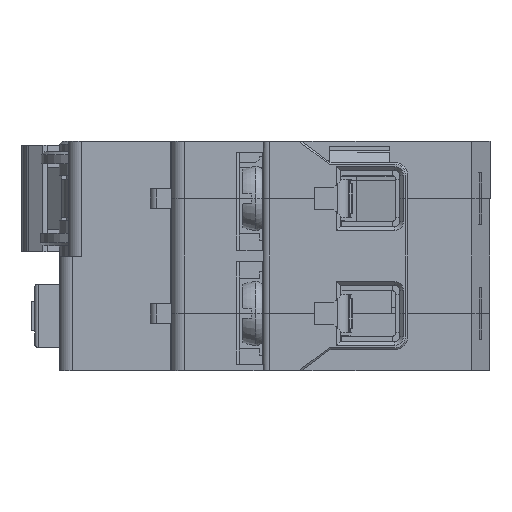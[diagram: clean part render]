
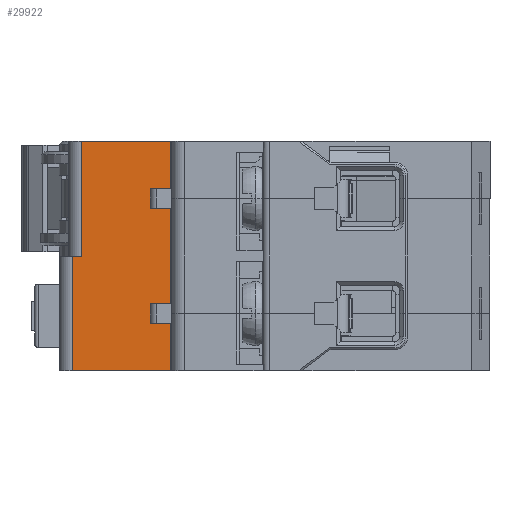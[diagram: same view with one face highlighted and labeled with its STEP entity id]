
A CAD part, left-side view. The second image highlights one B-rep face of the part: STEP entity #29922.
In plain terms, the highlighted planar face has unit normal (-1, 0, 0).
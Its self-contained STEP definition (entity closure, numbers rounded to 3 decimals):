
#633 = CARTESIAN_POINT ( 'NONE',  ( -18.402, -10.8, -9. ) ) ;
#3227 = VECTOR ( 'NONE', #27814, 1000. ) ;
#4300 = CARTESIAN_POINT ( 'NONE',  ( -18.402, 4.4, -26.7 ) ) ;
#4441 = AXIS2_PLACEMENT_3D ( 'NONE', #62444, #43146, #52083 ) ;
#4582 = VERTEX_POINT ( 'NONE', #30077 ) ;
#8980 = CARTESIAN_POINT ( 'NONE',  ( -18.402, -10.8, 9.725 ) ) ;
#9015 = PLANE ( 'NONE',  #4441 ) ;
#9797 = ORIENTED_EDGE ( 'NONE', *, *, #37832, .F. ) ;
#10722 = LINE ( 'NONE', #50577, #16814 ) ;
#12499 = LINE ( 'NONE', #41508, #38334 ) ;
#12552 = VERTEX_POINT ( 'NONE', #16221 ) ;
#14007 = VECTOR ( 'NONE', #48805, 1000. ) ;
#14321 = CARTESIAN_POINT ( 'NONE',  ( -18.402, -10.8, -26.7 ) ) ;
#15104 = ORIENTED_EDGE ( 'NONE', *, *, #36736, .F. ) ;
#16221 = CARTESIAN_POINT ( 'NONE',  ( -18.402, 3., -9. ) ) ;
#16814 = VECTOR ( 'NONE', #21513, 1000. ) ;
#20573 = VERTEX_POINT ( 'NONE', #48440 ) ;
#21513 = DIRECTION ( 'NONE',  ( 0., -1., 0. ) ) ;
#24391 = VECTOR ( 'NONE', #61646, 1000. ) ;
#25274 = LINE ( 'NONE', #47753, #3227 ) ;
#25944 = LINE ( 'NONE', #8980, #24391 ) ;
#27814 = DIRECTION ( 'NONE',  ( 0., 0., -1. ) ) ;
#29922 = ADVANCED_FACE ( 'NONE', ( #58746 ), #9015, .T. ) ;
#30077 = CARTESIAN_POINT ( 'NONE',  ( -18.402, 3., 8.9 ) ) ;
#30655 = EDGE_CURVE ( 'NONE', #12552, #58588, #36775, .T. ) ;
#36736 = EDGE_CURVE ( 'NONE', #55433, #60874, #42602, .T. ) ;
#36775 = LINE ( 'NONE', #633, #14007 ) ;
#37345 = CARTESIAN_POINT ( 'NONE',  ( -18.402, -10.8, -26.7 ) ) ;
#37832 = EDGE_CURVE ( 'NONE', #20573, #55433, #25944, .T. ) ;
#38334 = VECTOR ( 'NONE', #46396, 1000. ) ;
#41083 = VECTOR ( 'NONE', #42221, 1000. ) ;
#41508 = CARTESIAN_POINT ( 'NONE',  ( -18.402, 4.4, -26.7 ) ) ;
#42221 = DIRECTION ( 'NONE',  ( 0., 1., 0. ) ) ;
#42249 = EDGE_CURVE ( 'NONE', #4582, #12552, #25274, .T. ) ;
#42602 = LINE ( 'NONE', #37345, #41083 ) ;
#43146 = DIRECTION ( 'NONE',  ( -1., 0., 0. ) ) ;
#43852 = ORIENTED_EDGE ( 'NONE', *, *, #42249, .T. ) ;
#44641 = EDGE_LOOP ( 'NONE', ( #47239, #62236, #15104, #9797, #52187, #43852 ) ) ;
#45662 = CARTESIAN_POINT ( 'NONE',  ( -18.402, 4.4, -9. ) ) ;
#46396 = DIRECTION ( 'NONE',  ( 0., 0., -1. ) ) ;
#47239 = ORIENTED_EDGE ( 'NONE', *, *, #30655, .T. ) ;
#47753 = CARTESIAN_POINT ( 'NONE',  ( -18.402, 3., 103.248 ) ) ;
#48440 = CARTESIAN_POINT ( 'NONE',  ( -18.402, -10.8, 8.9 ) ) ;
#48805 = DIRECTION ( 'NONE',  ( 0., 1., 0. ) ) ;
#50577 = CARTESIAN_POINT ( 'NONE',  ( -18.402, -11., 8.9 ) ) ;
#52083 = DIRECTION ( 'NONE',  ( 0., 0., 1. ) ) ;
#52187 = ORIENTED_EDGE ( 'NONE', *, *, #62332, .F. ) ;
#55433 = VERTEX_POINT ( 'NONE', #14321 ) ;
#56859 = EDGE_CURVE ( 'NONE', #58588, #60874, #12499, .T. ) ;
#58588 = VERTEX_POINT ( 'NONE', #45662 ) ;
#58746 = FACE_OUTER_BOUND ( 'NONE', #44641, .T. ) ;
#60874 = VERTEX_POINT ( 'NONE', #4300 ) ;
#61646 = DIRECTION ( 'NONE',  ( 0., 0., -1. ) ) ;
#62236 = ORIENTED_EDGE ( 'NONE', *, *, #56859, .T. ) ;
#62332 = EDGE_CURVE ( 'NONE', #4582, #20573, #10722, .T. ) ;
#62444 = CARTESIAN_POINT ( 'NONE',  ( -18.402, 5., 103.248 ) ) ;
